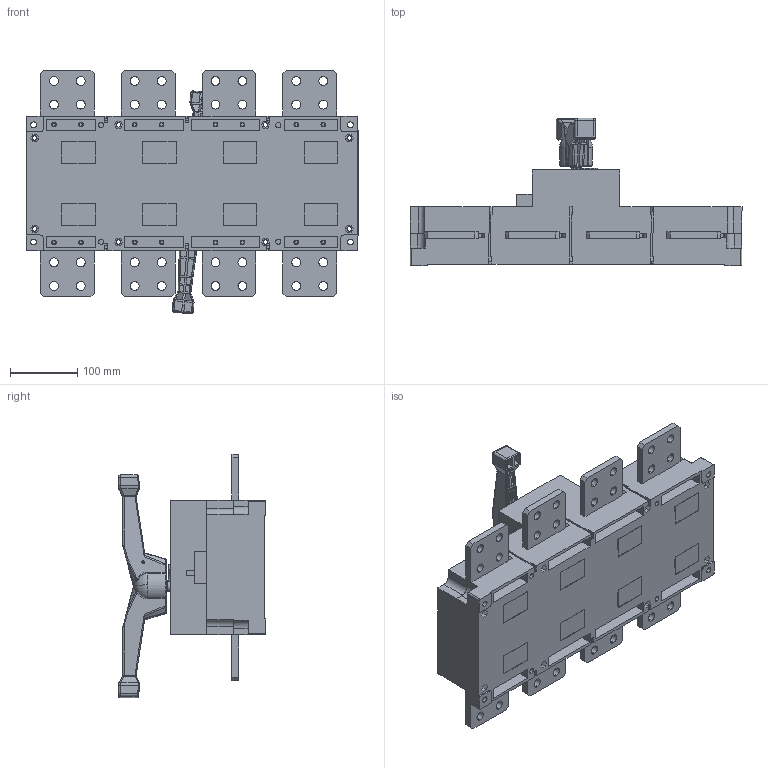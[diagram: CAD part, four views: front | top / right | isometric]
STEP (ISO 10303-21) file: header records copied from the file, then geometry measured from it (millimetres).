
FILE_DESCRIPTION (( 'STEP AP203' ), '1' );
FILE_NAME ('DNH8(HGL)-16004蚾饜尨砩芞.STEP', '2021-12-02T04:35:28', ( '' ), ( '' ), 'SwSTEP 2.0', 'SolidWorks 2019', '' );
FILE_SCHEMA (( 'CONFIG_CONTROL_DESIGN' ));
Length unit declared in the file: millimetre
Products named in the file (1): DNH8(HGL)-16004蚾饜尨砩芞
Bounding box: 493 x 218.74 x 361.54 mm (x, y, z)
Volume: 9773916.9 mm3; surface area: 772519.5 mm2
Topology: 3 solids, 17 shells, 2038 faces, 5310 edges, 3401 vertices
Faces by surface type: plane 1468, cylinder 381, cone 97, bspline 72, torus 20
Entity records: 64126 total; most frequent: CARTESIAN_POINT 14059, ORIENTED_EDGE 10570, DIRECTION 9909, EDGE_CURVE 5285, LINE 4111, VECTOR 4111, VERTEX_POINT 3401, AXIS2_PLACEMENT_3D 2899
